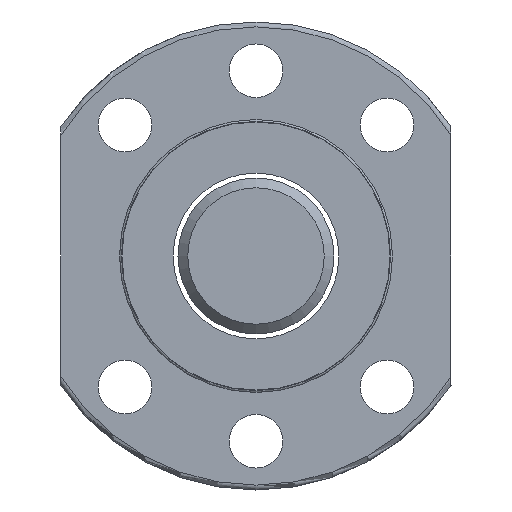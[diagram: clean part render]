
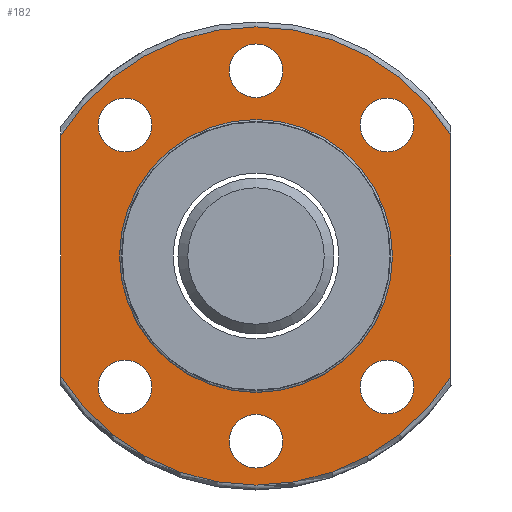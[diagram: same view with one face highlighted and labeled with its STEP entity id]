
A CAD part, left-side view. The second image highlights one B-rep face of the part: STEP entity #182.
In plain terms, the highlighted planar face has unit normal (-1, 0, 0).
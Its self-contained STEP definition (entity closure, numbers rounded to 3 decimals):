
#101=LINE('',#1074,#109);
#102=LINE('',#1075,#110);
#109=VECTOR('',#767,1.);
#110=VECTOR('',#768,1.);
#139=PLANE('',#639);
#159=FACE_OUTER_BOUND('',#306,.T.);
#182=ADVANCED_FACE('',(#234,#235,#236,#237,#238,#239,#240,#159),#139,.F.);
#234=FACE_BOUND('',#299,.T.);
#235=FACE_BOUND('',#300,.T.);
#236=FACE_BOUND('',#301,.T.);
#237=FACE_BOUND('',#302,.T.);
#238=FACE_BOUND('',#303,.T.);
#239=FACE_BOUND('',#304,.T.);
#240=FACE_BOUND('',#305,.T.);
#299=EDGE_LOOP('',(#392));
#300=EDGE_LOOP('',(#393));
#301=EDGE_LOOP('',(#394));
#302=EDGE_LOOP('',(#395));
#303=EDGE_LOOP('',(#396));
#304=EDGE_LOOP('',(#397));
#305=EDGE_LOOP('',(#398));
#306=EDGE_LOOP('',(#399,#400,#401,#402));
#392=ORIENTED_EDGE('',*,*,#535,.T.);
#393=ORIENTED_EDGE('',*,*,#536,.T.);
#394=ORIENTED_EDGE('',*,*,#537,.T.);
#395=ORIENTED_EDGE('',*,*,#538,.T.);
#396=ORIENTED_EDGE('',*,*,#539,.T.);
#397=ORIENTED_EDGE('',*,*,#540,.T.);
#398=ORIENTED_EDGE('',*,*,#541,.T.);
#399=ORIENTED_EDGE('',*,*,#533,.F.);
#400=ORIENTED_EDGE('',*,*,#542,.T.);
#401=ORIENTED_EDGE('',*,*,#515,.F.);
#402=ORIENTED_EDGE('',*,*,#543,.F.);
#465=VERTEX_POINT('',#924);
#466=VERTEX_POINT('',#947);
#480=VERTEX_POINT('',#1037);
#481=VERTEX_POINT('',#1039);
#482=VERTEX_POINT('',#1061);
#483=VERTEX_POINT('',#1063);
#484=VERTEX_POINT('',#1065);
#485=VERTEX_POINT('',#1067);
#486=VERTEX_POINT('',#1069);
#487=VERTEX_POINT('',#1071);
#488=VERTEX_POINT('',#1073);
#515=EDGE_CURVE('',#466,#465,#564,.T.);
#533=EDGE_CURVE('',#480,#481,#575,.T.);
#535=EDGE_CURVE('',#482,#482,#576,.T.);
#536=EDGE_CURVE('',#483,#483,#577,.T.);
#537=EDGE_CURVE('',#484,#484,#578,.T.);
#538=EDGE_CURVE('',#485,#485,#579,.T.);
#539=EDGE_CURVE('',#486,#486,#580,.T.);
#540=EDGE_CURVE('',#487,#487,#581,.T.);
#541=EDGE_CURVE('',#488,#488,#582,.T.);
#542=EDGE_CURVE('',#480,#465,#101,.T.);
#543=EDGE_CURVE('',#481,#466,#102,.T.);
#564=CIRCLE('',#615,23.5);
#575=CIRCLE('',#630,23.5);
#576=CIRCLE('',#632,2.75);
#577=CIRCLE('',#633,2.75);
#578=CIRCLE('',#634,2.75);
#579=CIRCLE('',#635,2.75);
#580=CIRCLE('',#636,2.75);
#581=CIRCLE('',#637,2.75);
#582=CIRCLE('',#638,14.);
#615=AXIS2_PLACEMENT_3D('',#948,#715,#716);
#630=AXIS2_PLACEMENT_3D('',#1038,#749,#750);
#632=AXIS2_PLACEMENT_3D('',#1060,#753,#754);
#633=AXIS2_PLACEMENT_3D('',#1062,#755,#756);
#634=AXIS2_PLACEMENT_3D('',#1064,#757,#758);
#635=AXIS2_PLACEMENT_3D('',#1066,#759,#760);
#636=AXIS2_PLACEMENT_3D('',#1068,#761,#762);
#637=AXIS2_PLACEMENT_3D('',#1070,#763,#764);
#638=AXIS2_PLACEMENT_3D('',#1072,#765,#766);
#639=AXIS2_PLACEMENT_3D('',#1076,#769,#770);
#715=DIRECTION('',(1.,0.,0.));
#716=DIRECTION('',(0.,0.,-1.));
#749=DIRECTION('',(1.,0.,0.));
#750=DIRECTION('',(0.,0.,-1.));
#753=DIRECTION('',(1.,0.,0.));
#754=DIRECTION('',(0.,0.,-1.));
#755=DIRECTION('',(1.,0.,0.));
#756=DIRECTION('',(0.,0.,-1.));
#757=DIRECTION('',(1.,0.,0.));
#758=DIRECTION('',(0.,0.,-1.));
#759=DIRECTION('',(1.,0.,0.));
#760=DIRECTION('',(0.,0.,-1.));
#761=DIRECTION('',(1.,0.,0.));
#762=DIRECTION('',(0.,0.,-1.));
#763=DIRECTION('',(1.,0.,0.));
#764=DIRECTION('',(0.,0.,-1.));
#765=DIRECTION('',(1.,0.,0.));
#766=DIRECTION('',(0.,0.,-1.));
#767=DIRECTION('',(0.,0.,-1.));
#768=DIRECTION('',(0.,0.,-1.));
#769=DIRECTION('',(1.,0.,0.));
#770=DIRECTION('',(0.,0.,-1.));
#924=CARTESIAN_POINT('',(-27.646,20.,-12.339));
#947=CARTESIAN_POINT('',(-27.646,-20.,-12.339));
#948=CARTESIAN_POINT('',(-27.646,0.,0.));
#1037=CARTESIAN_POINT('',(-27.646,20.,12.339));
#1038=CARTESIAN_POINT('',(-27.646,0.,0.));
#1039=CARTESIAN_POINT('',(-27.646,-20.,12.339));
#1060=CARTESIAN_POINT('',(-27.646,0.,-19.));
#1061=CARTESIAN_POINT('',(-27.646,0.,-21.75));
#1062=CARTESIAN_POINT('',(-27.646,0.,19.));
#1063=CARTESIAN_POINT('',(-27.646,0.,16.25));
#1064=CARTESIAN_POINT('',(-27.646,13.435,-13.435));
#1065=CARTESIAN_POINT('',(-27.646,13.435,-16.185));
#1066=CARTESIAN_POINT('',(-27.646,-13.435,-13.435));
#1067=CARTESIAN_POINT('',(-27.646,-13.435,-16.185));
#1068=CARTESIAN_POINT('',(-27.646,-13.435,13.435));
#1069=CARTESIAN_POINT('',(-27.646,-13.435,10.685));
#1070=CARTESIAN_POINT('',(-27.646,13.435,13.435));
#1071=CARTESIAN_POINT('',(-27.646,13.435,10.685));
#1072=CARTESIAN_POINT('',(-27.646,0.,0.));
#1073=CARTESIAN_POINT('',(-27.646,0.,-14.));
#1074=CARTESIAN_POINT('',(-27.646,20.,0.));
#1075=CARTESIAN_POINT('',(-27.646,-20.,0.));
#1076=CARTESIAN_POINT('',(-27.646,18.75,0.));
